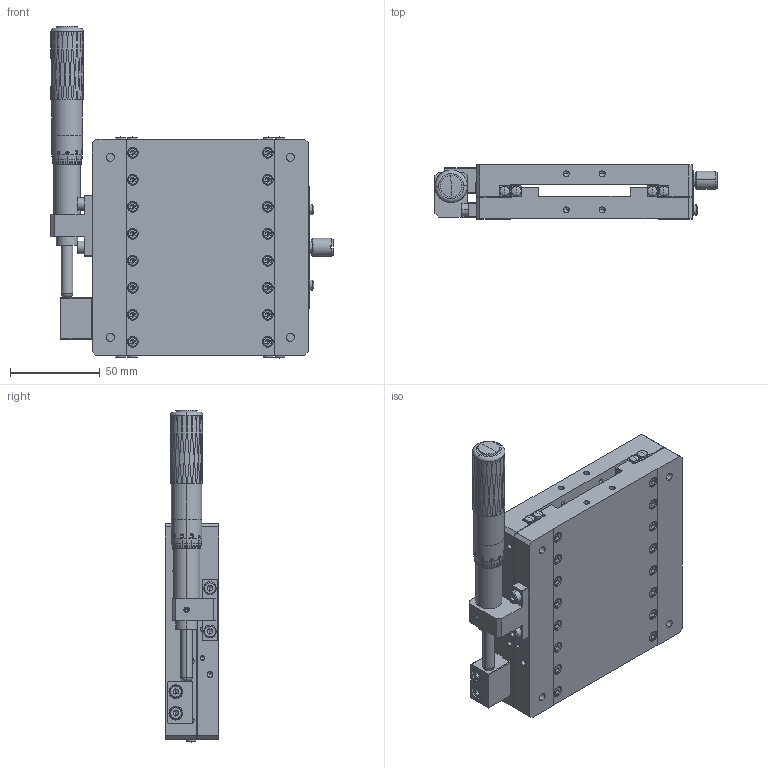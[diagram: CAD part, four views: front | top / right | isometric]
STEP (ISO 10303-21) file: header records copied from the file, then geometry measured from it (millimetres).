
FILE_DESCRIPTION (( 'STEP AP203' ), '1' );
FILE_NAME ('BPA120.STEP', '2024-01-04T06:43:46', ( 'China' ), ( 'Microsoft' ), 'SwSTEP 2.0', 'SolidWorks 2024', '' );
FILE_SCHEMA (( 'CONFIG_CONTROL_DESIGN' ));
Products named in the file (1): BPA120
Bounding box: 156.8 x 30 x 184.5 mm (x, y, z)
Volume: 415550.3 mm3; surface area: 137422.1 mm2
Topology: 70 solids, 70 shells, 4166 faces, 10424 edges, 6504 vertices
Faces by surface type: plane 1511, cylinder 926, bspline 823, cone 774, torus 124, sphere 8
Entity records: 166423 total; most frequent: CARTESIAN_POINT 74073, ORIENTED_EDGE 20436, DIRECTION 16676, EDGE_CURVE 10218, VERTEX_POINT 6504, AXIS2_PLACEMENT_3D 6252, EDGE_LOOP 4836, VECTOR 4172
